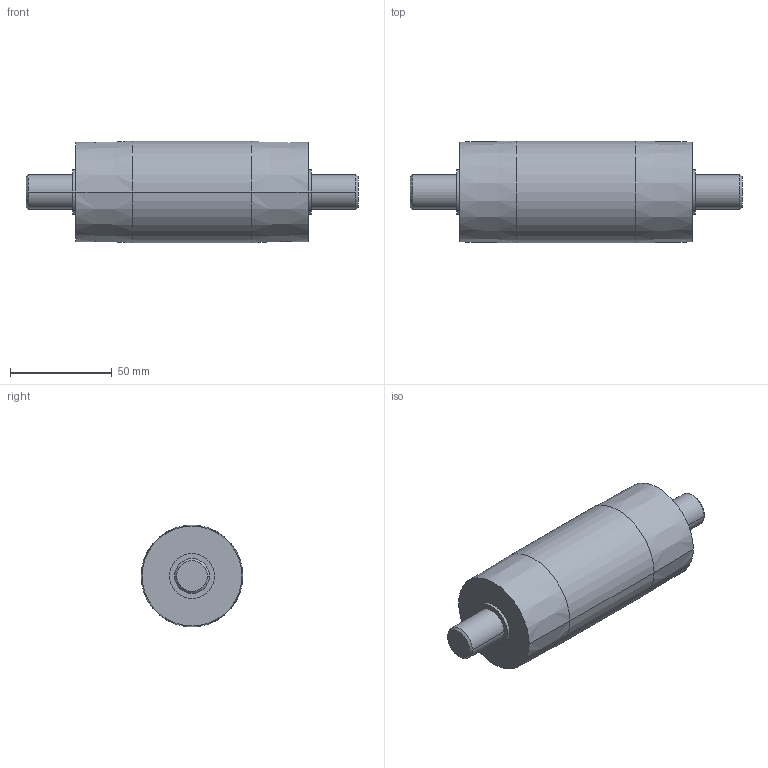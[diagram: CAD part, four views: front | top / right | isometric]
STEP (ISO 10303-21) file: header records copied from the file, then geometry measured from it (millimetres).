
FILE_DESCRIPTION (( 'STEP AP203' ), '1' );
FILE_NAME ('084.815.112.STEP', '2013-01-29T13:01:19', ( 'Alusic' ), ( 'Alusic' ), 'SwSTEP 2.0', 'SolidWorks 2011', '' );
FILE_SCHEMA (( 'CONFIG_CONTROL_DESIGN' ));
Length unit declared in the file: millimetre
Products named in the file (1): 084.815.112
Bounding box: 163 x 50 x 50 mm (x, y, z)
Volume: 233203.7 mm3; surface area: 24191.7 mm2
Topology: 1 solids, 1 shells, 24 faces, 46 edges, 28 vertices
Faces by surface type: cylinder 10, cone 8, plane 6
Entity records: 691 total; most frequent: DIRECTION 124, CARTESIAN_POINT 99, ORIENTED_EDGE 92, AXIS2_PLACEMENT_3D 53, EDGE_CURVE 46, CIRCLE 28, VERTEX_POINT 28, EDGE_LOOP 28
